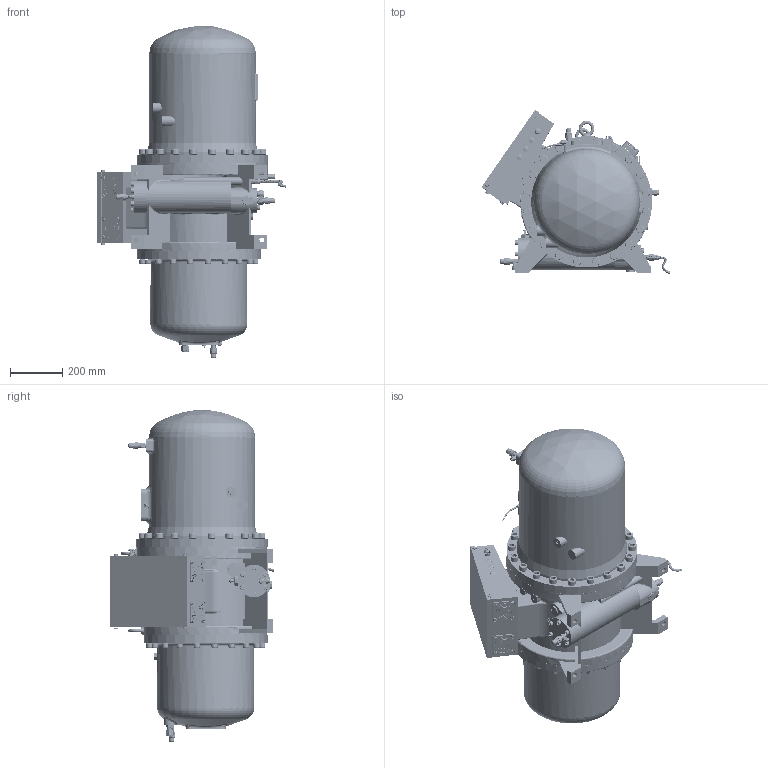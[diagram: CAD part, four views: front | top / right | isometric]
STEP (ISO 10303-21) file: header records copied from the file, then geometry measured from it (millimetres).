
FILE_DESCRIPTION(/* description */ ('STEP AP203'),/* implementation_level */ '2;1');
FILE_NAME(/* name */ 'C:\Users\Ian L Mitchell\Desktop\Hanbell 3D Drawings\Downloaded\RC2-260A&B outline.STEP',/* time_stamp */ '2017-06-26T13:59:19-04:00',/* author */ ('Ian L Mitchell'),/* organization */ (''),/* preprocessor_version */ 'ST-DEVELOPER v16.5',/* originating_system */ 'Autodesk Inventor 2017',/* authorisation */ '');
FILE_SCHEMA (('AUTOMOTIVE_DESIGN { 1 0 10303 214 3 1 1 }'));
Length unit declared in the file: centimetre
Products named in the file (1): RC2-260A&B outline
Bounding box: 721.48 x 627.18 x 1266.95 mm (x, y, z)
Surface area: 3852730.4 mm2 (no closed solid volume)
Topology: 0 solids, 290 shells, 2356 faces, 9264 edges, 7015 vertices
Faces by surface type: plane 1352, cylinder 616, torus 165, bspline 119, cone 80, sphere 24
Full cylindrical faces by diameter (mm): 2 x2, 3 x1, 3.3 x3, 4 x1, 4.5 x1, 5 x1, 5.5 x1, 6.5 x4, 7 x12, 8.433 x1, 8.5 x2, 10 x2, 11 x12, 12 x2, 13 x1, 13.157 x2, 13.7 x3, 14 x6, 14.88 x4, 16 x16, 16.1 x1, 17 x4, 17.5 x8, 17.7 x1, 18 x14, 20 x5, 20.2 x1, 20.5 x2, 21.5 x1, 22 x4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
Entity records: 134649 total; most frequent: CARTESIAN_POINT 59970, DIRECTION 15584, ORIENTED_EDGE 12488, EDGE_CURVE 8769, VERTEX_POINT 6915, AXIS2_PLACEMENT_3D 5503, LINE 4578, VECTOR 4578
